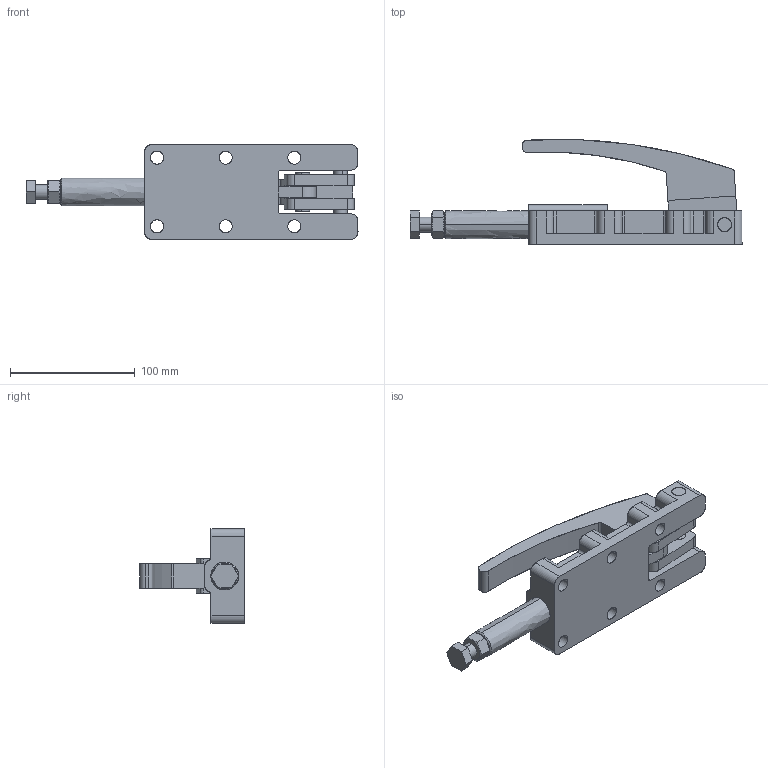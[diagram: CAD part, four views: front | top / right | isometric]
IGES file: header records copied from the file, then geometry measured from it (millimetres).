
Start section: SolidWorks IGES file using analytic representation for surfaces
Global section: file name: C:\Projetos\Grampos\KF-605\KF-605.IGS; native system: SolidWorks 2011; preprocessor: SolidWorks 2011; author: Usuario; date: 110519.104649; units: millimetre
Bounding box: 265.99 x 84.42 x 76 mm (x, y, z)
Surface area: 102447.2 mm2 (no closed solid volume)
Topology: 0 solids, 0 shells, 214 faces, 3764 edges, 3762 vertices
Faces by surface type: revolution 125, bspline 89
